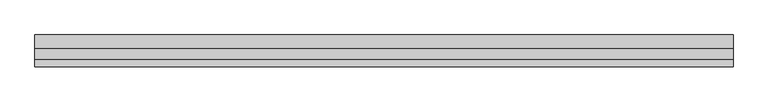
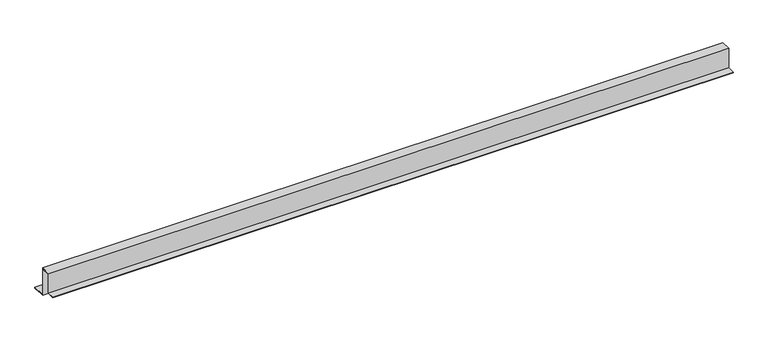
"""IFC4 building model written with IfcOpenShell, lengths in millimetres: proxy geometry, АК7_1 бок Обрамление оконного_дверного проема : АК7_1 бок Обрамление оконного_дверного проема."""

from ifc_helpers import new_model, si_unit, frame, origin, place, context, project, spatial, polyline, outline, extrude, source, transform, mapped, element, save


def generic_models_942eae3e(model_context):
    return source(origin(), model_context, "Body", "SweptSolid", [
        extrude(outline(polyline([(12.5, 25.0), (42.5, 25.0), (42.5, 22.0), (27.5, 22.0), (27.5, 23.0), (41.5, 23.0), (41.5, 24.0), (13.5, 24.0), (13.5, -36.9999552), (-10.5, -36.9999552), (-10.5, -35.9999552), (12.5, -35.9999552), (12.5, 25.0)])), frame((0.0, 0.0, 0.0), z_axis=(1.0, 0.0, 0.0), x_axis=(0.0, 1.0, 0.0)), (0.0, 0.0, 1.0), 2024.9983831),
        extrude(outline(polyline([(42.5, -60.0), (82.5, -60.0), (82.5, -63.0), (62.5, -63.0), (62.5, -62.0), (81.5, -62.0), (81.5, -61.0), (41.5, -61.0), (41.5, 21.0), (17.5, 21.0), (17.5, 22.0), (42.5, 22.0), (42.5, -60.0)])), frame((0.0, 0.0, 0.0), z_axis=(1.0, 0.0, 0.0), x_axis=(0.0, 1.0, 0.0)), (0.0, 0.0, 1.0), 2024.9983831),
    ])


if __name__ == "__main__":
    model = new_model("IFC4")
    model_context = context("Model", 3, world=origin())
    ifc_project = project(units=[si_unit("LENGTHUNIT", "METRE", prefix="MILLI")], contexts=[model_context])
    site = spatial("IfcSite", under=ifc_project)
    building = spatial("IfcBuilding", under=site)
    placement = place(None, origin())
    generic_models_shape = generic_models_942eae3e(model_context)
    element("IfcBuildingElementProxy", 1, Name="АК7_1 бок Обрамление оконного_дверного проема : АК7_1 бок Обрамление оконного_дверного проема", ObjectType="АК7_1 бок Обрамление оконного_дверного проема : АК7_1 бок Обрамление оконного_дверного проема", at=placement, inside=building, context=model_context, shape_type="MappedRepresentation", body=[
        mapped(generic_models_shape, transform((0.0, 0.0, 0.0), x_axis=(1.0, 0.0, 0.0), y_axis=(0.0, 1.0, 0.0), z_axis=(0.0, 0.0, 1.0))),
    ])
    save(model, "model.ifc")
